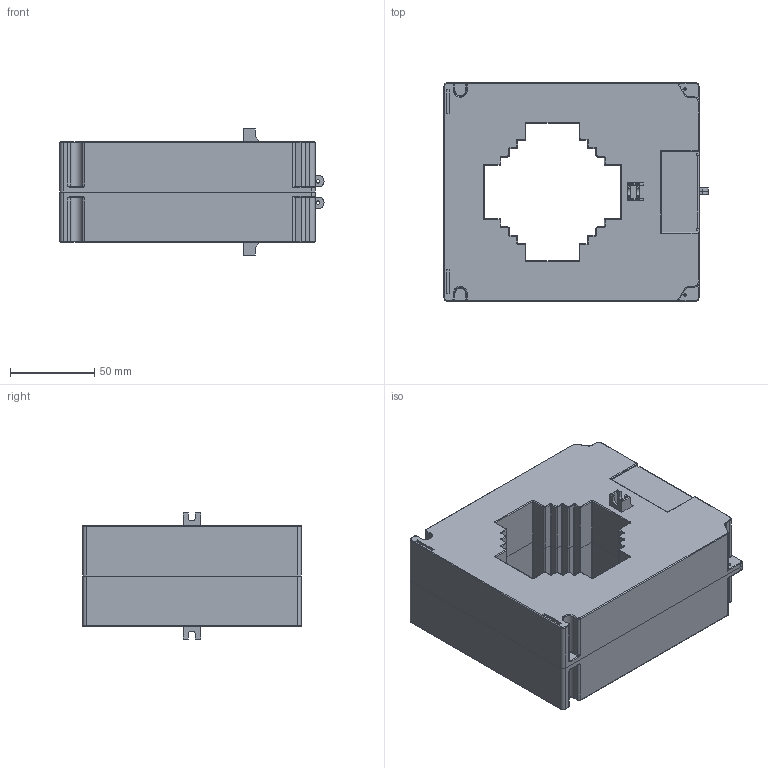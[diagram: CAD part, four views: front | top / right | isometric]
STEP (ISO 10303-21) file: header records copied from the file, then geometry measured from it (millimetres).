
FILE_DESCRIPTION(/* description */ (''),/* implementation_level */ '2;1');
FILE_NAME(/* name */ 'TUC80.step',/* time_stamp */ '2026-07-30T13:49:06+02:00',/* author */ (''),/* organization */ (''),/* preprocessor_version */ 'ST-DEVELOPER v20.1',/* originating_system */ 'Autodesk Translation Framework v15.8.0.0',/* authorisation */ '');
FILE_SCHEMA (('AUTOMOTIVE_DESIGN { 1 0 10303 214 3 1 1 }'));
Length unit declared in the file: millimetre
Products named in the file (1): Admi36DC456Aysjp
Bounding box: 157.18 x 130.1 x 76.1 mm (x, y, z)
Volume: 855695.4 mm3; surface area: 126972.3 mm2
Topology: 4 solids, 4 shells, 738 faces, 1900 edges, 1160 vertices
Faces by surface type: plane 320, cylinder 290, torus 84, bspline 32, sphere 12
Full cylindrical faces by diameter (mm): 1.48 x4, 2 x2
Entity records: 22970 total; most frequent: CARTESIAN_POINT 4749, DIRECTION 3930, ORIENTED_EDGE 3760, EDGE_CURVE 1880, AXIS2_PLACEMENT_3D 1367, LINE 1196, VECTOR 1196, VERTEX_POINT 1160
